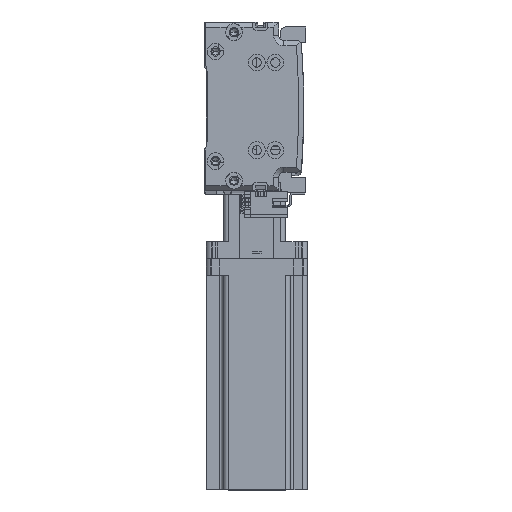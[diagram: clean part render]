
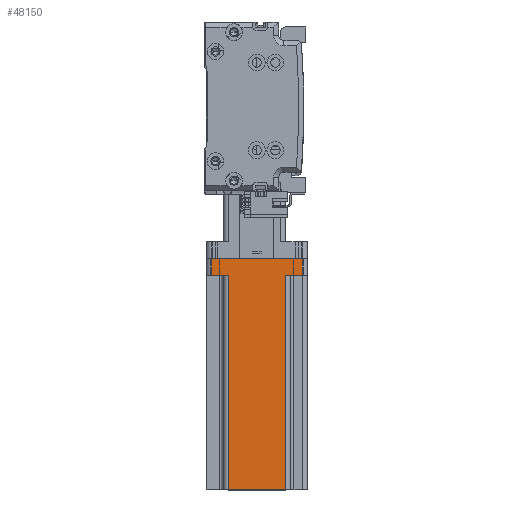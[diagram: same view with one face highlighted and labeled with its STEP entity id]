
A CAD part, top view. The second image highlights one B-rep face of the part: STEP entity #48150.
In plain terms, the highlighted planar face has unit normal (0, 0, 1) as drawn and (0, 1, 0) by its records, which use the part's own axes.
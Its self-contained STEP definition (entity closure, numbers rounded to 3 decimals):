
#31 = ORIENTED_EDGE ( 'NONE', *, *, #41795, .T. ) ;
#2003 = DIRECTION ( 'NONE',  ( -1., 0., 0. ) ) ;
#3860 = CARTESIAN_POINT ( 'NONE',  ( -20., 30., 10. ) ) ;
#4755 = VECTOR ( 'NONE', #50278, 1000. ) ;
#7941 = VECTOR ( 'NONE', #17970, 1000. ) ;
#8244 = EDGE_CURVE ( 'NONE', #53036, #26448, #10718, .T. ) ;
#8264 = DIRECTION ( 'NONE',  ( -1., 0., 0. ) ) ;
#9655 = EDGE_CURVE ( 'NONE', #45135, #53036, #50959, .T. ) ;
#10311 = ORIENTED_EDGE ( 'NONE', *, *, #44552, .T. ) ;
#10718 = LINE ( 'NONE', #3860, #31999 ) ;
#11133 = CARTESIAN_POINT ( 'NONE',  ( 27., 30., 0. ) ) ;
#12302 = CARTESIAN_POINT ( 'NONE',  ( 30., 30., 137. ) ) ;
#12620 = VECTOR ( 'NONE', #2003, 1000. ) ;
#13525 = DIRECTION ( 'NONE',  ( 0., 0., -1. ) ) ;
#13665 = CARTESIAN_POINT ( 'NONE',  ( -27., 30., 0. ) ) ;
#14304 = EDGE_CURVE ( 'NONE', #39741, #15715, #53388, .T. ) ;
#15715 = VERTEX_POINT ( 'NONE', #23936 ) ;
#16382 = PLANE ( 'NONE',  #44114 ) ;
#16568 = DIRECTION ( 'NONE',  ( 1., 0., 0. ) ) ;
#16637 = DIRECTION ( 'NONE',  ( 1., 0., 0. ) ) ;
#16676 = VECTOR ( 'NONE', #13525, 1000. ) ;
#17970 = DIRECTION ( 'NONE',  ( 0., 0., 1. ) ) ;
#19371 = LINE ( 'NONE', #26145, #16676 ) ;
#20147 = CARTESIAN_POINT ( 'NONE',  ( 30., 30., 137. ) ) ;
#20153 = ORIENTED_EDGE ( 'NONE', *, *, #14304, .F. ) ;
#20209 = ORIENTED_EDGE ( 'NONE', *, *, #34819, .F. ) ;
#20899 = FACE_OUTER_BOUND ( 'NONE', #20983, .T. ) ;
#20983 = EDGE_LOOP ( 'NONE', ( #47699, #22234, #20209, #10311, #20153, #35809, #31, #44602 ) ) ;
#21050 = EDGE_CURVE ( 'NONE', #39741, #21889, #49845, .T. ) ;
#21889 = VERTEX_POINT ( 'NONE', #11133 ) ;
#22234 = ORIENTED_EDGE ( 'NONE', *, *, #46303, .T. ) ;
#23182 = CARTESIAN_POINT ( 'NONE',  ( 30., 30., 0. ) ) ;
#23936 = CARTESIAN_POINT ( 'NONE',  ( 17., 30., 10. ) ) ;
#25239 = LINE ( 'NONE', #23182, #12620 ) ;
#26145 = CARTESIAN_POINT ( 'NONE',  ( 17., 30., 137. ) ) ;
#26448 = VERTEX_POINT ( 'NONE', #28221 ) ;
#28221 = CARTESIAN_POINT ( 'NONE',  ( -17., 30., 10. ) ) ;
#29534 = VECTOR ( 'NONE', #8264, 1000. ) ;
#29681 = CARTESIAN_POINT ( 'NONE',  ( 17., 30., 137. ) ) ;
#30235 = LINE ( 'NONE', #20147, #31569 ) ;
#31569 = VECTOR ( 'NONE', #32981, 1000. ) ;
#31999 = VECTOR ( 'NONE', #16637, 1000. ) ;
#32981 = DIRECTION ( 'NONE',  ( -1., 0., 0. ) ) ;
#33949 = DIRECTION ( 'NONE',  ( 0., 0., 1. ) ) ;
#34819 = EDGE_CURVE ( 'NONE', #35646, #38269, #30235, .T. ) ;
#34964 = CARTESIAN_POINT ( 'NONE',  ( 27., 30., 10. ) ) ;
#35646 = VERTEX_POINT ( 'NONE', #29681 ) ;
#35809 = ORIENTED_EDGE ( 'NONE', *, *, #21050, .T. ) ;
#38269 = VERTEX_POINT ( 'NONE', #43482 ) ;
#38382 = VECTOR ( 'NONE', #33949, 1000. ) ;
#39741 = VERTEX_POINT ( 'NONE', #34964 ) ;
#41795 = EDGE_CURVE ( 'NONE', #21889, #45135, #25239, .T. ) ;
#42019 = DIRECTION ( 'NONE',  ( 0., -1., 0. ) ) ;
#43482 = CARTESIAN_POINT ( 'NONE',  ( -17., 30., 137. ) ) ;
#44114 = AXIS2_PLACEMENT_3D ( 'NONE', #12302, #42019, #16568 ) ;
#44552 = EDGE_CURVE ( 'NONE', #35646, #15715, #19371, .T. ) ;
#44602 = ORIENTED_EDGE ( 'NONE', *, *, #9655, .T. ) ;
#45135 = VERTEX_POINT ( 'NONE', #13665 ) ;
#46039 = CARTESIAN_POINT ( 'NONE',  ( 27., 30., 137. ) ) ;
#46158 = CARTESIAN_POINT ( 'NONE',  ( -27., 30., 10. ) ) ;
#46303 = EDGE_CURVE ( 'NONE', #26448, #38269, #53101, .T. ) ;
#47632 = CARTESIAN_POINT ( 'NONE',  ( -17., 30., 137. ) ) ;
#47699 = ORIENTED_EDGE ( 'NONE', *, *, #8244, .T. ) ;
#48150 = ADVANCED_FACE ( 'NONE', ( #20899 ), #16382, .F. ) ;
#49845 = LINE ( 'NONE', #46039, #4755 ) ;
#50278 = DIRECTION ( 'NONE',  ( 0., 0., -1. ) ) ;
#50543 = CARTESIAN_POINT ( 'NONE',  ( 20., 30., 10. ) ) ;
#50762 = CARTESIAN_POINT ( 'NONE',  ( -27., 30., 137. ) ) ;
#50959 = LINE ( 'NONE', #50762, #38382 ) ;
#53036 = VERTEX_POINT ( 'NONE', #46158 ) ;
#53101 = LINE ( 'NONE', #47632, #7941 ) ;
#53388 = LINE ( 'NONE', #50543, #29534 ) ;
